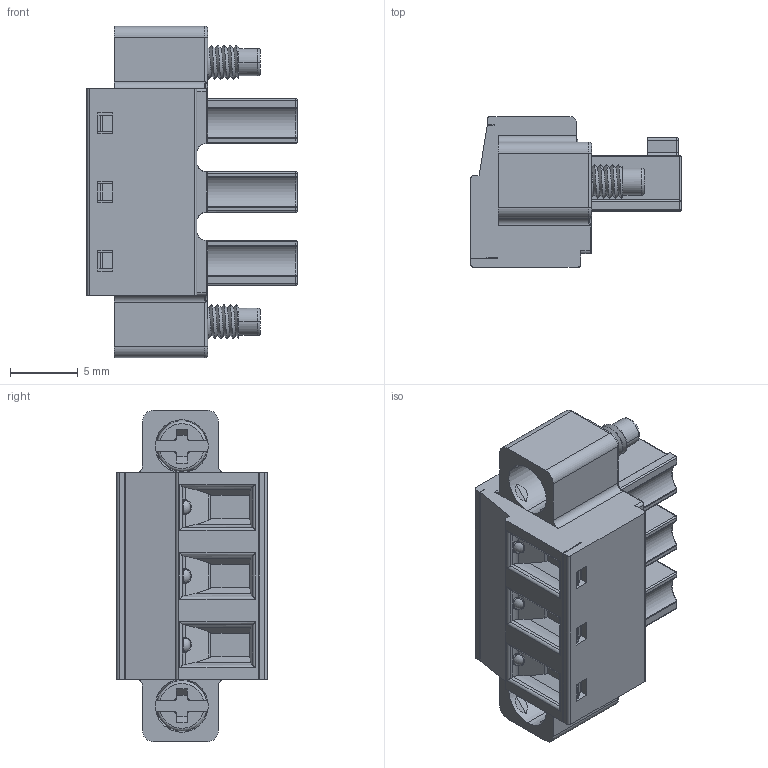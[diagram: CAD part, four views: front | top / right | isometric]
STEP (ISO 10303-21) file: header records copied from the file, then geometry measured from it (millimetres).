
FILE_DESCRIPTION((''),'2;1');
FILE_NAME('3','2019-05-09T',('zhenbing.lai'),(''),'CREO PARAMETRIC BY PTC INC, 2016260','CREO PARAMETRIC BY PTC INC, 2016260','');
FILE_SCHEMA(('CONFIG_CONTROL_DESIGN'));
Length unit declared in the file: millimetre
Products named in the file (1): 3
Bounding box: 15.5 x 11.1 x 24.44 mm (x, y, z)
Volume: 1758.5 mm3; surface area: 1830.9 mm2
Topology: 1 solids, 3 shells, 633 faces, 1674 edges, 1055 vertices
Faces by surface type: plane 322, cylinder 203, torus 38, sphere 26, bspline 24, cone 20
Entity records: 24628 total; most frequent: CARTESIAN_POINT 9332, ORIENTED_EDGE 3298, DIRECTION 3007, EDGE_CURVE 1649, VERTEX_POINT 1055, AXIS2_PLACEMENT_3D 1027, VECTOR 953, LINE 953
